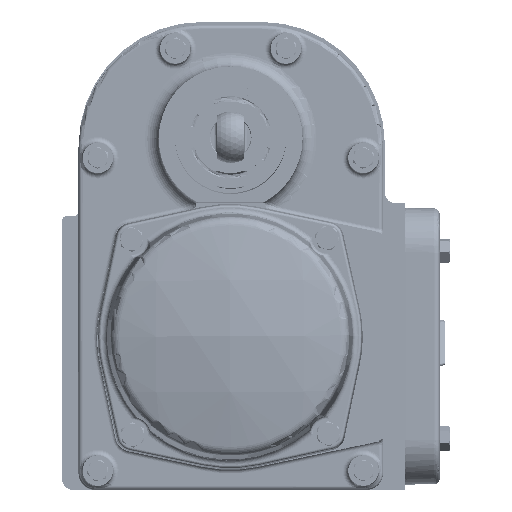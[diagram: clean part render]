
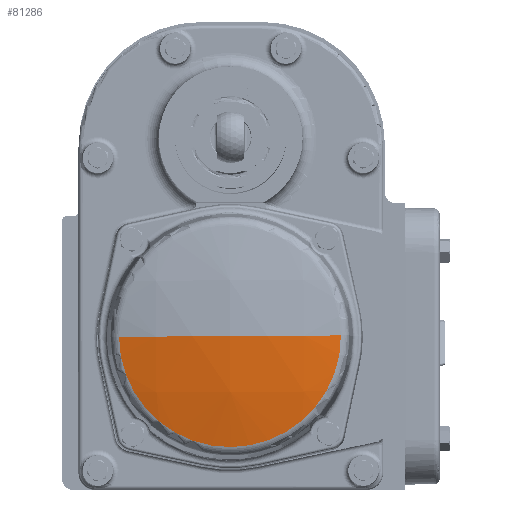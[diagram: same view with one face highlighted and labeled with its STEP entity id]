
A CAD part, top view. The second image highlights one B-rep face of the part: STEP entity #81286.
In plain terms, the highlighted spherical face has radius 279.4 mm.
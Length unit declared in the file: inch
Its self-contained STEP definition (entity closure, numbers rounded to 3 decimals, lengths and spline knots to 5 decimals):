
#51256 = CARTESIAN_POINT ( 'NONE',  ( -1.77143, -1.07309, 13.43811 ) ) ;
#51259 = CARTESIAN_POINT ( 'NONE',  ( 3.23945, -1.04209, 13.43811 ) ) ;
#51261 = CARTESIAN_POINT ( 'NONE',  ( 0.73401, -1.05759, 13.72725 ) ) ;
#57924 = FACE_OUTER_BOUND ( 'NONE', #155890, .T. ) ;
#57926 = SPHERICAL_SURFACE ( 'NONE', #83167, 11. ) ;
#60543 = VERTEX_POINT ( 'NONE', #51256 ) ;
#60546 = VERTEX_POINT ( 'NONE', #51259 ) ;
#60549 = VERTEX_POINT ( 'NONE', #51261 ) ;
#81286 = ADVANCED_FACE ( 'NONE', ( #57924 ), #57926, .T. ) ;
#82913 = CARTESIAN_POINT ( 'NONE',  ( 0.73401, -1.05759, 2.72725 ) ) ;
#82914 = DIRECTION ( 'NONE',  ( 0.006, -1., 0. ) ) ;
#82915 = DIRECTION ( 'NONE',  ( -1., -0.006, 0. ) ) ;
#83167 = AXIS2_PLACEMENT_3D ( 'NONE', #82913, #82914, #82915 ) ;
#125293 = EDGE_CURVE ( 'NONE', #60543, #60546, #179611, .T. ) ;
#125295 = EDGE_CURVE ( 'NONE', #60546, #60549, #179612, .T. ) ;
#125297 = EDGE_CURVE ( 'NONE', #60543, #60549, #179613, .T. ) ;
#133235 = ORIENTED_EDGE ( 'NONE', *, *, #125293, .T. ) ;
#133237 = ORIENTED_EDGE ( 'NONE', *, *, #125295, .T. ) ;
#133240 = ORIENTED_EDGE ( 'NONE', *, *, #125297, .F. ) ;
#155890 = EDGE_LOOP ( 'NONE', ( #133235, #133237, #133240 ) ) ;
#179611 = CIRCLE ( 'NONE', #180399, 2.50549 ) ;
#179612 = CIRCLE ( 'NONE', #180401, 11. ) ;
#179613 = CIRCLE ( 'NONE', #180403, 11. ) ;
#180399 = AXIS2_PLACEMENT_3D ( 'NONE', #185224, #185226, #185228 ) ;
#180401 = AXIS2_PLACEMENT_3D ( 'NONE', #185231, #185233, #185235 ) ;
#180403 = AXIS2_PLACEMENT_3D ( 'NONE', #185238, #185240, #185242 ) ;
#185224 = CARTESIAN_POINT ( 'NONE',  ( 0.73401, -1.05759, 13.43811 ) ) ;
#185226 = DIRECTION ( 'NONE',  ( 0., 0., 1. ) ) ;
#185228 = DIRECTION ( 'NONE',  ( -1., -0.006, 0. ) ) ;
#185231 = CARTESIAN_POINT ( 'NONE',  ( 0.73401, -1.05759, 2.72725 ) ) ;
#185233 = DIRECTION ( 'NONE',  ( 0.006, -1., 0. ) ) ;
#185235 = DIRECTION ( 'NONE',  ( 1., 0.006, 0. ) ) ;
#185238 = CARTESIAN_POINT ( 'NONE',  ( 0.73401, -1.05759, 2.72725 ) ) ;
#185240 = DIRECTION ( 'NONE',  ( -0.006, 1., 0. ) ) ;
#185242 = DIRECTION ( 'NONE',  ( -1., -0.006, 0. ) ) ;
